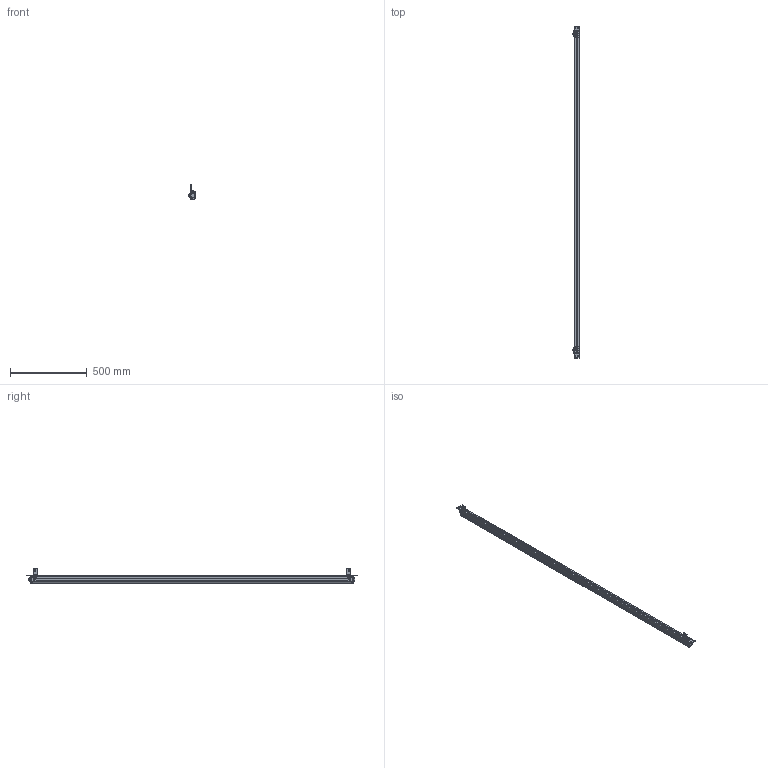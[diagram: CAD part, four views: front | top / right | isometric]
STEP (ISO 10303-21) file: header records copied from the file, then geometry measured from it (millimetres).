
FILE_DESCRIPTION((''),'2;1');
FILE_NAME('ESN--000_ASM','2021-08-11T16:42:54',('18720616900'),(''),'CREO PARAMETRIC BY PTC INC, 2019010','CREO PARAMETRIC BY PTC INC, 2019010','');
FILE_SCHEMA(('CONFIG_CONTROL_DESIGN'));
Length unit declared in the file: millimetre
Products named in the file (22): 00; 000; _0001; 4000; 4--0001; ESN_40001_ASM; L10001; M6-8--0001; M6-1--00; M6-1-00; M6-80001_ASM; L1--0001_ASM; _0002; 0005; ST-3-120001; H1--000; H1--0001_ASM; H1--0003_ASM; ESN--000_ASM
Assembly tree (34 placements, depth 4):
  ESN--000_ASM
    00
    000
    _0001
    000
    ESN_40001_ASM
      4000
      4--0001  x4
    L1--0001_ASM  x2
      L10001
      M6-80001_ASM
        M6-8--0001
        M6-1--00
        M6-1-00
        00
    _0002
    0005
    ST-3-120001  x8
    H1--0001_ASM
      H1--000
      M6-80001_ASM
        M6-8--0001
        M6-1--00
        M6-1-00
        00
    H1--0003_ASM
      H1--000
      M6-80001_ASM
        M6-8--0001
        M6-1--00
        M6-1-00
        00
Bounding box: 46.5 x 2167 x 94.95 mm (x, y, z)
Volume: 3149576.2 mm3; surface area: 621470.3 mm2
Topology: 39 solids, 39 shells, 1727 faces, 4555 edges, 2925 vertices
Faces by surface type: plane 541, cylinder 404, bspline 362, cone 291, torus 105, sphere 24
Entity records: 45714 total; most frequent: CARTESIAN_POINT 24222, ORIENTED_EDGE 4766, DIRECTION 3842, EDGE_CURVE 2383, VERTEX_POINT 1546, AXIS2_PLACEMENT_3D 1400, VECTOR 1042, LINE 1042
